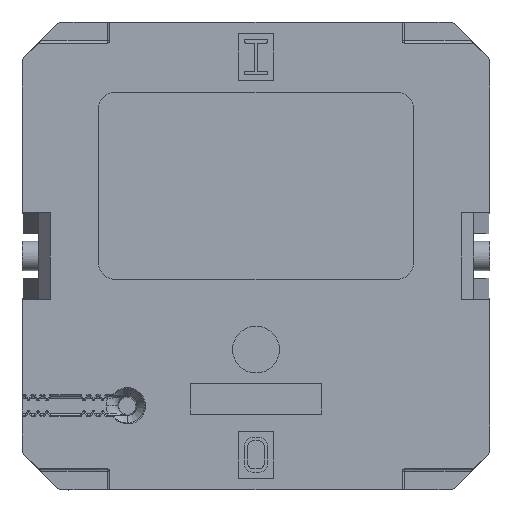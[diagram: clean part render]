
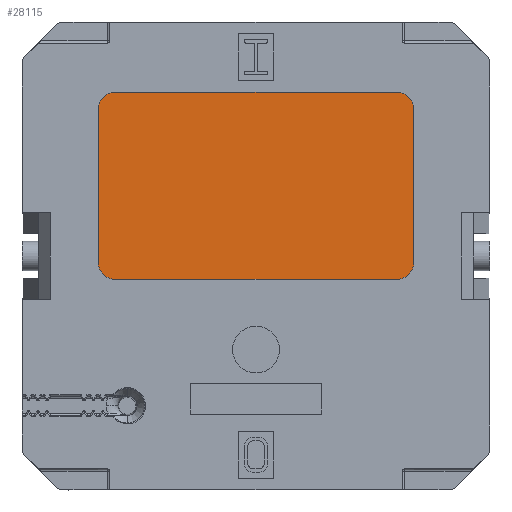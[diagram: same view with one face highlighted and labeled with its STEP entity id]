
A CAD part, front view. The second image highlights one B-rep face of the part: STEP entity #28115.
In plain terms, the highlighted planar face has unit normal (0, -1, 0).
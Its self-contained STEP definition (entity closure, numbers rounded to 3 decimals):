
#243 = FACE_OUTER_BOUND ( 'NONE', #23926, .T. ) ;
#2391 = VERTEX_POINT ( 'NONE', #35718 ) ;
#2503 = VERTEX_POINT ( 'NONE', #3257 ) ;
#2560 = DIRECTION ( 'NONE',  ( 0., 0., -1. ) ) ;
#2988 = ORIENTED_EDGE ( 'NONE', *, *, #26329, .F. ) ;
#3228 = VECTOR ( 'NONE', #12607, 1000. ) ;
#3257 = CARTESIAN_POINT ( 'NONE',  ( -28.218, 5.292, -0.4 ) ) ;
#3706 = DIRECTION ( 'NONE',  ( -1., 0., 0. ) ) ;
#4045 = VERTEX_POINT ( 'NONE', #12943 ) ;
#5027 = CARTESIAN_POINT ( 'NONE',  ( -26.718, 5.292, 14.1 ) ) ;
#5067 = EDGE_CURVE ( 'NONE', #21868, #36256, #13946, .T. ) ;
#6728 = CARTESIAN_POINT ( 'NONE',  ( -40.218, 5.292, 15.6 ) ) ;
#6984 = LINE ( 'NONE', #37575, #29357 ) ;
#7391 = AXIS2_PLACEMENT_3D ( 'NONE', #17118, #20234, #37899 ) ;
#7710 = CARTESIAN_POINT ( 'NONE',  ( -28.218, 5.292, 1.1 ) ) ;
#7906 = DIRECTION ( 'NONE',  ( 0., 0., 1. ) ) ;
#8631 = ORIENTED_EDGE ( 'NONE', *, *, #34456, .F. ) ;
#9396 = CIRCLE ( 'NONE', #15744, 1.5 ) ;
#10038 = EDGE_CURVE ( 'NONE', #32282, #2503, #9396, .T. ) ;
#10772 = EDGE_CURVE ( 'NONE', #26126, #32282, #11228, .T. ) ;
#11165 = LINE ( 'NONE', #6728, #3228 ) ;
#11228 = LINE ( 'NONE', #29395, #30768 ) ;
#11903 = DIRECTION ( 'NONE',  ( 0., 1., 0. ) ) ;
#12581 = CARTESIAN_POINT ( 'NONE',  ( -40.218, 5.292, -0.4 ) ) ;
#12607 = DIRECTION ( 'NONE',  ( 1., 0., 0. ) ) ;
#12943 = CARTESIAN_POINT ( 'NONE',  ( -52.218, 5.292, 15.6 ) ) ;
#13354 = CARTESIAN_POINT ( 'NONE',  ( -26.718, 5.292, 1.1 ) ) ;
#13552 = ORIENTED_EDGE ( 'NONE', *, *, #29122, .F. ) ;
#13946 = CIRCLE ( 'NONE', #26452, 1.5 ) ;
#14335 = PLANE ( 'NONE',  #14353 ) ;
#14353 = AXIS2_PLACEMENT_3D ( 'NONE', #38018, #31909, #23085 ) ;
#15425 = VECTOR ( 'NONE', #3706, 1000. ) ;
#15744 = AXIS2_PLACEMENT_3D ( 'NONE', #7710, #31533, #25179 ) ;
#16522 = CARTESIAN_POINT ( 'NONE',  ( -28.218, 5.292, 15.6 ) ) ;
#17118 = CARTESIAN_POINT ( 'NONE',  ( -28.218, 5.292, 14.1 ) ) ;
#17685 = ORIENTED_EDGE ( 'NONE', *, *, #10772, .F. ) ;
#18467 = EDGE_CURVE ( 'NONE', #36256, #2391, #6984, .T. ) ;
#20058 = ORIENTED_EDGE ( 'NONE', *, *, #5067, .F. ) ;
#20234 = DIRECTION ( 'NONE',  ( 0., 1., 0. ) ) ;
#20933 = CARTESIAN_POINT ( 'NONE',  ( -53.718, 5.292, 1.1 ) ) ;
#21174 = DIRECTION ( 'NONE',  ( 0., 1., 0. ) ) ;
#21374 = ORIENTED_EDGE ( 'NONE', *, *, #31300, .F. ) ;
#21451 = AXIS2_PLACEMENT_3D ( 'NONE', #29734, #11903, #32722 ) ;
#21868 = VERTEX_POINT ( 'NONE', #31410 ) ;
#22102 = CIRCLE ( 'NONE', #7391, 1.5 ) ;
#23085 = DIRECTION ( 'NONE',  ( 1., 0., 0. ) ) ;
#23926 = EDGE_LOOP ( 'NONE', ( #29366, #17685, #13552, #8631, #21374, #24228, #20058, #2988 ) ) ;
#24228 = ORIENTED_EDGE ( 'NONE', *, *, #18467, .F. ) ;
#25179 = DIRECTION ( 'NONE',  ( 0., 0., -1. ) ) ;
#26126 = VERTEX_POINT ( 'NONE', #5027 ) ;
#26329 = EDGE_CURVE ( 'NONE', #2503, #21868, #30750, .T. ) ;
#26452 = AXIS2_PLACEMENT_3D ( 'NONE', #30357, #21174, #33493 ) ;
#28115 = ADVANCED_FACE ( 'NONE', ( #243 ), #14335, .T. ) ;
#29122 = EDGE_CURVE ( 'NONE', #29454, #26126, #22102, .T. ) ;
#29357 = VECTOR ( 'NONE', #7906, 1000. ) ;
#29366 = ORIENTED_EDGE ( 'NONE', *, *, #10038, .F. ) ;
#29395 = CARTESIAN_POINT ( 'NONE',  ( -26.718, 5.292, 7.6 ) ) ;
#29454 = VERTEX_POINT ( 'NONE', #16522 ) ;
#29734 = CARTESIAN_POINT ( 'NONE',  ( -52.218, 5.292, 14.1 ) ) ;
#30357 = CARTESIAN_POINT ( 'NONE',  ( -52.218, 5.292, 1.1 ) ) ;
#30750 = LINE ( 'NONE', #12581, #15425 ) ;
#30768 = VECTOR ( 'NONE', #2560, 1000. ) ;
#31300 = EDGE_CURVE ( 'NONE', #2391, #4045, #33120, .T. ) ;
#31410 = CARTESIAN_POINT ( 'NONE',  ( -52.218, 5.292, -0.4 ) ) ;
#31533 = DIRECTION ( 'NONE',  ( 0., 1., 0. ) ) ;
#31909 = DIRECTION ( 'NONE',  ( 0., -1., 0. ) ) ;
#32282 = VERTEX_POINT ( 'NONE', #13354 ) ;
#32722 = DIRECTION ( 'NONE',  ( 0., 0., -1. ) ) ;
#33120 = CIRCLE ( 'NONE', #21451, 1.5 ) ;
#33493 = DIRECTION ( 'NONE',  ( 0., 0., -1. ) ) ;
#34456 = EDGE_CURVE ( 'NONE', #4045, #29454, #11165, .T. ) ;
#35718 = CARTESIAN_POINT ( 'NONE',  ( -53.718, 5.292, 14.1 ) ) ;
#36256 = VERTEX_POINT ( 'NONE', #20933 ) ;
#37575 = CARTESIAN_POINT ( 'NONE',  ( -53.718, 5.292, 7.6 ) ) ;
#37899 = DIRECTION ( 'NONE',  ( 0., 0., -1. ) ) ;
#38018 = CARTESIAN_POINT ( 'NONE',  ( -55.068, 5.292, -1.2 ) ) ;
